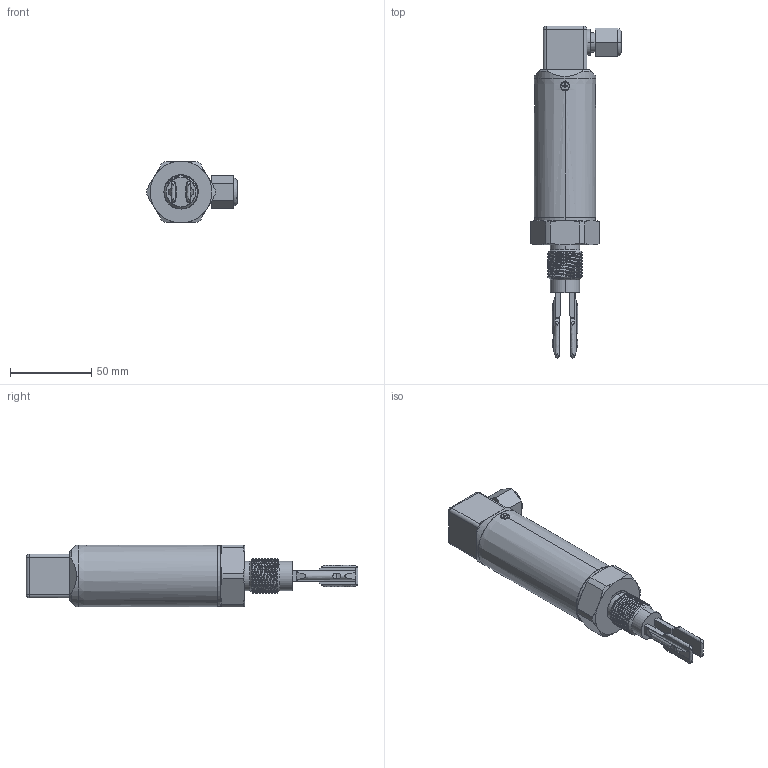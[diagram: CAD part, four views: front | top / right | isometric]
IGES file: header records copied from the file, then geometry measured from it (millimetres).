
Start section: SolidWorks IGES file using analytic representation for surfaces
Bounding box: 55.49 x 204 x 38 mm (x, y, z)
Surface area: 25971.9 mm2 (no closed solid volume)
Topology: 0 solids, 0 shells, 191 faces, 3292 edges, 3285 vertices
Faces by surface type: revolution 109, bspline 82
